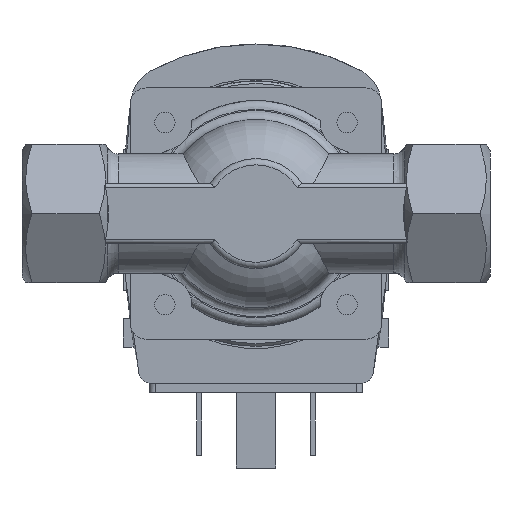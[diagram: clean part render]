
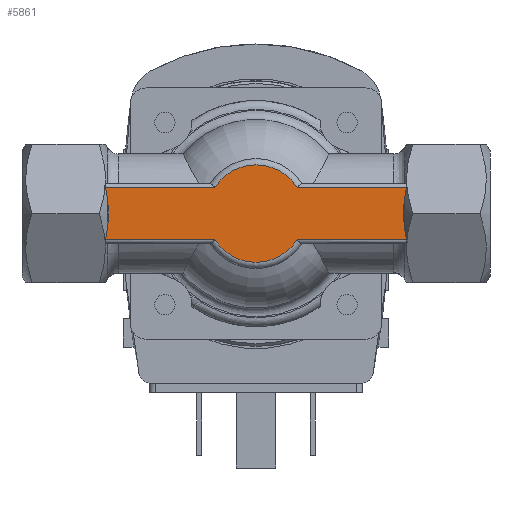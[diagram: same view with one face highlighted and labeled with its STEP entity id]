
A CAD part, front view. The second image highlights one B-rep face of the part: STEP entity #5861.
In plain terms, the highlighted planar face has unit normal (0, -1, 0).
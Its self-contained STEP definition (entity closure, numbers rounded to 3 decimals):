
#118=PLANE('',#6284);
#266=B_SPLINE_CURVE_WITH_KNOTS('',3,(#8665,#8666,#8667,#8668),
 .UNSPECIFIED.,.F.,.F.,(4,4),(0.,0.002),
 .UNSPECIFIED.);
#268=B_SPLINE_CURVE_WITH_KNOTS('',3,(#8676,#8677,#8678,#8679),
 .UNSPECIFIED.,.F.,.F.,(4,4),(0.007,0.008),
 .UNSPECIFIED.);
#275=B_SPLINE_CURVE_WITH_KNOTS('',3,(#8726,#8727,#8728,#8729,#8730),
 .UNSPECIFIED.,.F.,.F.,(4,1,4),(0.036,0.039,0.041),
 .UNSPECIFIED.);
#276=B_SPLINE_CURVE_WITH_KNOTS('',3,(#8734,#8735,#8736,#8737,#8738),
 .UNSPECIFIED.,.F.,.F.,(4,1,4),(0.036,0.039,0.041),
 .UNSPECIFIED.);
#284=B_SPLINE_CURVE_WITH_KNOTS('',3,(#8793,#8794,#8795,#8796),
 .UNSPECIFIED.,.F.,.F.,(4,4),(0.007,0.008),
 .UNSPECIFIED.);
#285=B_SPLINE_CURVE_WITH_KNOTS('',3,(#8797,#8798,#8799,#8800),
 .UNSPECIFIED.,.F.,.F.,(4,4),(0.,0.002),
 .UNSPECIFIED.);
#553=CIRCLE('',#6285,7.75);
#554=CIRCLE('',#6286,7.75);
#1178=ORIENTED_EDGE('',*,*,#2256,.T.);
#1179=ORIENTED_EDGE('',*,*,#2257,.T.);
#1180=ORIENTED_EDGE('',*,*,#2165,.T.);
#1181=ORIENTED_EDGE('',*,*,#2206,.T.);
#1182=ORIENTED_EDGE('',*,*,#2196,.T.);
#1183=ORIENTED_EDGE('',*,*,#2205,.T.);
#1184=ORIENTED_EDGE('',*,*,#2258,.F.);
#1185=ORIENTED_EDGE('',*,*,#2259,.T.);
#1186=ORIENTED_EDGE('',*,*,#2168,.F.);
#1187=ORIENTED_EDGE('',*,*,#2184,.T.);
#1188=ORIENTED_EDGE('',*,*,#2194,.T.);
#1189=ORIENTED_EDGE('',*,*,#2187,.T.);
#2165=EDGE_CURVE('',#2773,#2774,#3130,.T.);
#2168=EDGE_CURVE('',#2775,#2776,#3131,.T.);
#2184=EDGE_CURVE('',#2775,#2787,#266,.T.);
#2187=EDGE_CURVE('',#2788,#2789,#268,.T.);
#2194=EDGE_CURVE('',#2787,#2788,#275,.T.);
#2196=EDGE_CURVE('',#2796,#2797,#276,.T.);
#2205=EDGE_CURVE('',#2797,#2804,#284,.T.);
#2206=EDGE_CURVE('',#2774,#2796,#285,.T.);
#2256=EDGE_CURVE('',#2789,#2837,#3160,.T.);
#2257=EDGE_CURVE('',#2837,#2773,#553,.T.);
#2258=EDGE_CURVE('',#2838,#2804,#3161,.T.);
#2259=EDGE_CURVE('',#2838,#2776,#554,.T.);
#2773=VERTEX_POINT('',#8588);
#2774=VERTEX_POINT('',#8589);
#2775=VERTEX_POINT('',#8601);
#2776=VERTEX_POINT('',#8602);
#2787=VERTEX_POINT('',#8663);
#2788=VERTEX_POINT('',#8664);
#2789=VERTEX_POINT('',#8675);
#2796=VERTEX_POINT('',#8739);
#2797=VERTEX_POINT('',#8740);
#2804=VERTEX_POINT('',#8792);
#2837=VERTEX_POINT('',#8969);
#2838=VERTEX_POINT('',#8974);
#3130=LINE('',#8587,#3448);
#3131=LINE('',#8600,#3449);
#3160=LINE('',#8970,#3478);
#3161=LINE('',#8973,#3479);
#3448=VECTOR('',#7040,1000.);
#3449=VECTOR('',#7043,1000.);
#3478=VECTOR('',#7160,1000.);
#3479=VECTOR('',#7165,1000.);
#3874=EDGE_LOOP('',(#1178,#1179,#1180,#1181,#1182,#1183,#1184,#1185,#1186,
#1187,#1188,#1189));
#4258=FACE_BOUND('',#3874,.T.);
#5861=ADVANCED_FACE('',(#4258),#118,.F.);
#6284=AXIS2_PLACEMENT_3D('',#8971,#7161,#7162);
#6285=AXIS2_PLACEMENT_3D('',#8972,#7163,#7164);
#6286=AXIS2_PLACEMENT_3D('',#8975,#7166,#7167);
#7040=DIRECTION('',(-1.,0.,0.));
#7043=DIRECTION('',(-1.,0.,0.));
#7160=DIRECTION('',(-1.,0.,0.));
#7161=DIRECTION('',(0.,1.,0.));
#7162=DIRECTION('',(0.,0.,1.));
#7163=DIRECTION('',(0.,-1.,0.));
#7164=DIRECTION('',(0.,0.,-1.));
#7165=DIRECTION('',(-1.,0.,0.));
#7166=DIRECTION('',(0.,-1.,0.));
#7167=DIRECTION('',(0.,0.,-1.));
#8587=CARTESIAN_POINT('',(25.,-10.2,4.15));
#8588=CARTESIAN_POINT('',(-6.545,-10.2,4.15));
#8589=CARTESIAN_POINT('',(-23.963,-10.2,4.15));
#8600=CARTESIAN_POINT('',(25.,-10.2,-4.15));
#8601=CARTESIAN_POINT('',(23.963,-10.2,-4.15));
#8602=CARTESIAN_POINT('',(6.545,-10.2,-4.15));
#8663=CARTESIAN_POINT('',(23.667,-10.2,-2.492));
#8664=CARTESIAN_POINT('',(23.667,-10.2,2.492));
#8665=CARTESIAN_POINT('',(23.963,-10.2,-4.15));
#8666=CARTESIAN_POINT('',(23.843,-10.2,-3.599));
#8667=CARTESIAN_POINT('',(23.743,-10.2,-3.046));
#8668=CARTESIAN_POINT('',(23.667,-10.2,-2.492));
#8675=CARTESIAN_POINT('',(23.963,-10.2,4.15));
#8676=CARTESIAN_POINT('',(23.667,-10.2,2.492));
#8677=CARTESIAN_POINT('',(23.744,-10.2,3.048));
#8678=CARTESIAN_POINT('',(23.843,-10.2,3.601));
#8679=CARTESIAN_POINT('',(23.963,-10.2,4.15));
#8726=CARTESIAN_POINT('',(23.667,-10.2,-2.492));
#8727=CARTESIAN_POINT('',(23.554,-10.2,-1.662));
#8728=CARTESIAN_POINT('',(23.356,-10.2,0.016));
#8729=CARTESIAN_POINT('',(23.554,-10.2,1.668));
#8730=CARTESIAN_POINT('',(23.667,-10.2,2.492));
#8734=CARTESIAN_POINT('',(-23.667,-10.2,2.492));
#8735=CARTESIAN_POINT('',(-23.554,-10.2,1.662));
#8736=CARTESIAN_POINT('',(-23.356,-10.2,-0.016));
#8737=CARTESIAN_POINT('',(-23.554,-10.2,-1.668));
#8738=CARTESIAN_POINT('',(-23.667,-10.2,-2.492));
#8739=CARTESIAN_POINT('',(-23.667,-10.2,2.492));
#8740=CARTESIAN_POINT('',(-23.667,-10.2,-2.492));
#8792=CARTESIAN_POINT('',(-23.963,-10.2,-4.15));
#8793=CARTESIAN_POINT('',(-23.667,-10.2,-2.492));
#8794=CARTESIAN_POINT('',(-23.744,-10.2,-3.048));
#8795=CARTESIAN_POINT('',(-23.843,-10.2,-3.601));
#8796=CARTESIAN_POINT('',(-23.963,-10.2,-4.15));
#8797=CARTESIAN_POINT('',(-23.963,-10.2,4.15));
#8798=CARTESIAN_POINT('',(-23.843,-10.2,3.599));
#8799=CARTESIAN_POINT('',(-23.743,-10.2,3.046));
#8800=CARTESIAN_POINT('',(-23.667,-10.2,2.492));
#8969=CARTESIAN_POINT('',(6.545,-10.2,4.15));
#8970=CARTESIAN_POINT('',(25.,-10.2,4.15));
#8971=CARTESIAN_POINT('',(25.,-10.2,4.15));
#8972=CARTESIAN_POINT('',(0.,-10.2,0.));
#8973=CARTESIAN_POINT('',(25.,-10.2,-4.15));
#8974=CARTESIAN_POINT('',(-6.545,-10.2,-4.15));
#8975=CARTESIAN_POINT('',(0.,-10.2,0.));
